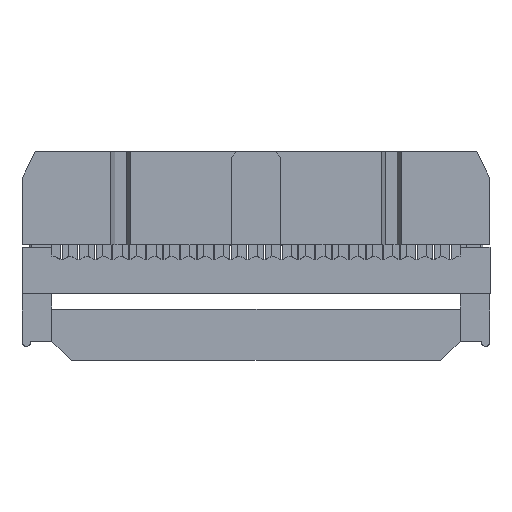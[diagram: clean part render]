
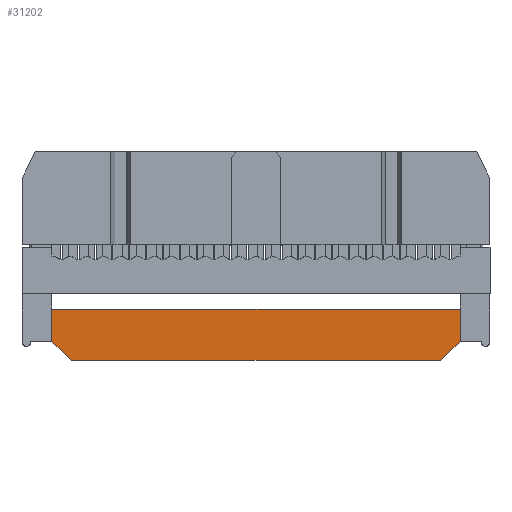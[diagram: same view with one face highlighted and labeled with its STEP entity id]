
A CAD part, front view. The second image highlights one B-rep face of the part: STEP entity #31202.
In plain terms, the highlighted planar face has unit normal (0, -1, 0).
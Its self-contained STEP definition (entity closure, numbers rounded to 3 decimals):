
#28340 = EDGE_CURVE('',#28341,#28343,#28345,.T.);
#28341 = VERTEX_POINT('',#28342);
#28342 = CARTESIAN_POINT('',(-13.965,-1.685,-1.365));
#28343 = VERTEX_POINT('',#28344);
#28344 = CARTESIAN_POINT('',(-13.76,-1.685,-1.45));
#28345 = SURFACE_CURVE('',#28346,(#28351,#28363),.PCURVE_S1.);
#28346 = CIRCLE('',#28347,0.29);
#28347 = AXIS2_PLACEMENT_3D('',#28348,#28349,#28350);
#28348 = CARTESIAN_POINT('',(-13.76,-1.685,-1.16));
#28349 = DIRECTION('',(0.,-1.,0.));
#28350 = DIRECTION('',(0.,0.,-1.));
#28351 = PCURVE('',#28352,#28357);
#28352 = CYLINDRICAL_SURFACE('',#28353,0.29);
#28353 = AXIS2_PLACEMENT_3D('',#28354,#28355,#28356);
#28354 = CARTESIAN_POINT('',(-13.76,-1.685,-1.16));
#28355 = DIRECTION('',(-0.,-1.,-0.));
#28356 = DIRECTION('',(0.,0.,1.));
#28357 = DEFINITIONAL_REPRESENTATION('',(#28358),#28362);
#28358 = LINE('',#28359,#28360);
#28359 = CARTESIAN_POINT('',(-3.142,0.));
#28360 = VECTOR('',#28361,1.);
#28361 = DIRECTION('',(1.,0.));
#28362 = ( GEOMETRIC_REPRESENTATION_CONTEXT(2) 
PARAMETRIC_REPRESENTATION_CONTEXT() REPRESENTATION_CONTEXT('2D SPACE',''
  ) );
#28363 = PCURVE('',#28364,#28369);
#28364 = PLANE('',#28365);
#28365 = AXIS2_PLACEMENT_3D('',#28366,#28367,#28368);
#28366 = CARTESIAN_POINT('',(-15.33,-1.685,0.));
#28367 = DIRECTION('',(0.,-1.,0.));
#28368 = DIRECTION('',(0.,0.,-1.));
#28369 = DEFINITIONAL_REPRESENTATION('',(#28370),#28374);
#28370 = CIRCLE('',#28371,0.29);
#28371 = AXIS2_PLACEMENT_2D('',#28372,#28373);
#28372 = CARTESIAN_POINT('',(1.16,1.57));
#28373 = DIRECTION('',(1.,0.));
#28374 = ( GEOMETRIC_REPRESENTATION_CONTEXT(2) 
PARAMETRIC_REPRESENTATION_CONTEXT() REPRESENTATION_CONTEXT('2D SPACE',''
  ) );
#28392 = PLANE('',#28393);
#28393 = AXIS2_PLACEMENT_3D('',#28394,#28395,#28396);
#28394 = CARTESIAN_POINT('',(-15.33,-1.685,0.));
#28395 = DIRECTION('',(-0.707,0.,-0.707));
#28396 = DIRECTION('',(-0.707,0.,0.707));
#28447 = PLANE('',#28448);
#28448 = AXIS2_PLACEMENT_3D('',#28449,#28450,#28451);
#28449 = CARTESIAN_POINT('',(-13.88,-1.685,-1.45));
#28450 = DIRECTION('',(0.,0.,-1.));
#28451 = DIRECTION('',(-1.,0.,0.));
#28991 = PLANE('',#28992);
#28992 = AXIS2_PLACEMENT_3D('',#28993,#28994,#28995);
#28993 = CARTESIAN_POINT('',(15.33,-3.,0.));
#28994 = DIRECTION('',(1.,0.,0.));
#28995 = DIRECTION('',(0.,0.,-1.));
#29375 = VERTEX_POINT('',#29376);
#29376 = CARTESIAN_POINT('',(15.33,-1.685,2.4));
#29390 = PLANE('',#29391);
#29391 = AXIS2_PLACEMENT_3D('',#29392,#29393,#29394);
#29392 = CARTESIAN_POINT('',(-15.33,-1.685,2.4));
#29393 = DIRECTION('',(0.,0.,-1.));
#29394 = DIRECTION('',(-1.,0.,0.));
#29402 = EDGE_CURVE('',#29403,#29375,#29405,.T.);
#29403 = VERTEX_POINT('',#29404);
#29404 = CARTESIAN_POINT('',(15.33,-1.685,0.));
#29405 = SURFACE_CURVE('',#29406,(#29410,#29417),.PCURVE_S1.);
#29406 = LINE('',#29407,#29408);
#29407 = CARTESIAN_POINT('',(15.33,-1.685,2.4));
#29408 = VECTOR('',#29409,1.);
#29409 = DIRECTION('',(0.,0.,1.));
#29410 = PCURVE('',#28991,#29411);
#29411 = DEFINITIONAL_REPRESENTATION('',(#29412),#29416);
#29412 = LINE('',#29413,#29414);
#29413 = CARTESIAN_POINT('',(-2.4,1.315));
#29414 = VECTOR('',#29415,1.);
#29415 = DIRECTION('',(-1.,0.));
#29416 = ( GEOMETRIC_REPRESENTATION_CONTEXT(2) 
PARAMETRIC_REPRESENTATION_CONTEXT() REPRESENTATION_CONTEXT('2D SPACE',''
  ) );
#29417 = PCURVE('',#28364,#29418);
#29418 = DEFINITIONAL_REPRESENTATION('',(#29419),#29423);
#29419 = LINE('',#29420,#29421);
#29420 = CARTESIAN_POINT('',(-2.4,30.66));
#29421 = VECTOR('',#29422,1.);
#29422 = DIRECTION('',(-1.,0.));
#29423 = ( GEOMETRIC_REPRESENTATION_CONTEXT(2) 
PARAMETRIC_REPRESENTATION_CONTEXT() REPRESENTATION_CONTEXT('2D SPACE',''
  ) );
#29850 = PLANE('',#29851);
#29851 = AXIS2_PLACEMENT_3D('',#29852,#29853,#29854);
#29852 = CARTESIAN_POINT('',(13.88,-1.685,-1.45));
#29853 = DIRECTION('',(0.707,0.,-0.707));
#29854 = DIRECTION('',(-0.707,0.,-0.707));
#29941 = PLANE('',#29942);
#29942 = AXIS2_PLACEMENT_3D('',#29943,#29944,#29945);
#29943 = CARTESIAN_POINT('',(-15.33,-3.,0.));
#29944 = DIRECTION('',(-1.,0.,0.));
#29945 = DIRECTION('',(0.,0.,1.));
#29954 = VERTEX_POINT('',#29955);
#29955 = CARTESIAN_POINT('',(-15.33,-1.685,0.));
#30118 = VERTEX_POINT('',#30119);
#30119 = CARTESIAN_POINT('',(-15.33,-1.685,2.4));
#30210 = EDGE_CURVE('',#30118,#29954,#30211,.T.);
#30211 = SURFACE_CURVE('',#30212,(#30216,#30223),.PCURVE_S1.);
#30212 = LINE('',#30213,#30214);
#30213 = CARTESIAN_POINT('',(-15.33,-1.685,0.));
#30214 = VECTOR('',#30215,1.);
#30215 = DIRECTION('',(0.,0.,-1.));
#30216 = PCURVE('',#29941,#30217);
#30217 = DEFINITIONAL_REPRESENTATION('',(#30218),#30222);
#30218 = LINE('',#30219,#30220);
#30219 = CARTESIAN_POINT('',(0.,1.315));
#30220 = VECTOR('',#30221,1.);
#30221 = DIRECTION('',(-1.,0.));
#30222 = ( GEOMETRIC_REPRESENTATION_CONTEXT(2) 
PARAMETRIC_REPRESENTATION_CONTEXT() REPRESENTATION_CONTEXT('2D SPACE',''
  ) );
#30223 = PCURVE('',#28364,#30224);
#30224 = DEFINITIONAL_REPRESENTATION('',(#30225),#30229);
#30225 = LINE('',#30226,#30227);
#30226 = CARTESIAN_POINT('',(0.,0.));
#30227 = VECTOR('',#30228,1.);
#30228 = DIRECTION('',(1.,0.));
#30229 = ( GEOMETRIC_REPRESENTATION_CONTEXT(2) 
PARAMETRIC_REPRESENTATION_CONTEXT() REPRESENTATION_CONTEXT('2D SPACE',''
  ) );
#30340 = CYLINDRICAL_SURFACE('',#30341,0.29);
#30341 = AXIS2_PLACEMENT_3D('',#30342,#30343,#30344);
#30342 = CARTESIAN_POINT('',(13.76,-1.685,-1.16));
#30343 = DIRECTION('',(-0.,-1.,-0.));
#30344 = DIRECTION('',(0.,0.,1.));
#30357 = EDGE_CURVE('',#28341,#29954,#30358,.T.);
#30358 = SURFACE_CURVE('',#30359,(#30363,#30370),.PCURVE_S1.);
#30359 = LINE('',#30360,#30361);
#30360 = CARTESIAN_POINT('',(-15.33,-1.685,0.));
#30361 = VECTOR('',#30362,1.);
#30362 = DIRECTION('',(-0.707,0.,0.707));
#30363 = PCURVE('',#28392,#30364);
#30364 = DEFINITIONAL_REPRESENTATION('',(#30365),#30369);
#30365 = LINE('',#30366,#30367);
#30366 = CARTESIAN_POINT('',(0.,0.));
#30367 = VECTOR('',#30368,1.);
#30368 = DIRECTION('',(1.,0.));
#30369 = ( GEOMETRIC_REPRESENTATION_CONTEXT(2) 
PARAMETRIC_REPRESENTATION_CONTEXT() REPRESENTATION_CONTEXT('2D SPACE',''
  ) );
#30370 = PCURVE('',#28364,#30371);
#30371 = DEFINITIONAL_REPRESENTATION('',(#30372),#30376);
#30372 = LINE('',#30373,#30374);
#30373 = CARTESIAN_POINT('',(0.,0.));
#30374 = VECTOR('',#30375,1.);
#30375 = DIRECTION('',(-0.707,-0.707));
#30376 = ( GEOMETRIC_REPRESENTATION_CONTEXT(2) 
PARAMETRIC_REPRESENTATION_CONTEXT() REPRESENTATION_CONTEXT('2D SPACE',''
  ) );
#31202 = ADVANCED_FACE('',(#31203),#28364,.T.);
#31203 = FACE_BOUND('',#31204,.T.);
#31204 = EDGE_LOOP('',(#31205,#31206,#31207,#31230,#31254,#31275,#31276,
    #31297));
#31205 = ORIENTED_EDGE('',*,*,#30357,.F.);
#31206 = ORIENTED_EDGE('',*,*,#28340,.T.);
#31207 = ORIENTED_EDGE('',*,*,#31208,.F.);
#31208 = EDGE_CURVE('',#31209,#28343,#31211,.T.);
#31209 = VERTEX_POINT('',#31210);
#31210 = CARTESIAN_POINT('',(13.76,-1.685,-1.45));
#31211 = SURFACE_CURVE('',#31212,(#31216,#31223),.PCURVE_S1.);
#31212 = LINE('',#31213,#31214);
#31213 = CARTESIAN_POINT('',(-13.88,-1.685,-1.45));
#31214 = VECTOR('',#31215,1.);
#31215 = DIRECTION('',(-1.,0.,0.));
#31216 = PCURVE('',#28364,#31217);
#31217 = DEFINITIONAL_REPRESENTATION('',(#31218),#31222);
#31218 = LINE('',#31219,#31220);
#31219 = CARTESIAN_POINT('',(1.45,1.45));
#31220 = VECTOR('',#31221,1.);
#31221 = DIRECTION('',(0.,-1.));
#31222 = ( GEOMETRIC_REPRESENTATION_CONTEXT(2) 
PARAMETRIC_REPRESENTATION_CONTEXT() REPRESENTATION_CONTEXT('2D SPACE',''
  ) );
#31223 = PCURVE('',#28447,#31224);
#31224 = DEFINITIONAL_REPRESENTATION('',(#31225),#31229);
#31225 = LINE('',#31226,#31227);
#31226 = CARTESIAN_POINT('',(0.,0.));
#31227 = VECTOR('',#31228,1.);
#31228 = DIRECTION('',(1.,0.));
#31229 = ( GEOMETRIC_REPRESENTATION_CONTEXT(2) 
PARAMETRIC_REPRESENTATION_CONTEXT() REPRESENTATION_CONTEXT('2D SPACE',''
  ) );
#31230 = ORIENTED_EDGE('',*,*,#31231,.T.);
#31231 = EDGE_CURVE('',#31209,#31232,#31234,.T.);
#31232 = VERTEX_POINT('',#31233);
#31233 = CARTESIAN_POINT('',(13.965,-1.685,-1.365));
#31234 = SURFACE_CURVE('',#31235,(#31240,#31247),.PCURVE_S1.);
#31235 = CIRCLE('',#31236,0.29);
#31236 = AXIS2_PLACEMENT_3D('',#31237,#31238,#31239);
#31237 = CARTESIAN_POINT('',(13.76,-1.685,-1.16));
#31238 = DIRECTION('',(0.,-1.,0.));
#31239 = DIRECTION('',(0.,0.,-1.));
#31240 = PCURVE('',#28364,#31241);
#31241 = DEFINITIONAL_REPRESENTATION('',(#31242),#31246);
#31242 = CIRCLE('',#31243,0.29);
#31243 = AXIS2_PLACEMENT_2D('',#31244,#31245);
#31244 = CARTESIAN_POINT('',(1.16,29.09));
#31245 = DIRECTION('',(1.,0.));
#31246 = ( GEOMETRIC_REPRESENTATION_CONTEXT(2) 
PARAMETRIC_REPRESENTATION_CONTEXT() REPRESENTATION_CONTEXT('2D SPACE',''
  ) );
#31247 = PCURVE('',#30340,#31248);
#31248 = DEFINITIONAL_REPRESENTATION('',(#31249),#31253);
#31249 = LINE('',#31250,#31251);
#31250 = CARTESIAN_POINT('',(3.142,0.));
#31251 = VECTOR('',#31252,1.);
#31252 = DIRECTION('',(1.,0.));
#31253 = ( GEOMETRIC_REPRESENTATION_CONTEXT(2) 
PARAMETRIC_REPRESENTATION_CONTEXT() REPRESENTATION_CONTEXT('2D SPACE',''
  ) );
#31254 = ORIENTED_EDGE('',*,*,#31255,.F.);
#31255 = EDGE_CURVE('',#29403,#31232,#31256,.T.);
#31256 = SURFACE_CURVE('',#31257,(#31261,#31268),.PCURVE_S1.);
#31257 = LINE('',#31258,#31259);
#31258 = CARTESIAN_POINT('',(13.88,-1.685,-1.45));
#31259 = VECTOR('',#31260,1.);
#31260 = DIRECTION('',(-0.707,0.,-0.707));
#31261 = PCURVE('',#28364,#31262);
#31262 = DEFINITIONAL_REPRESENTATION('',(#31263),#31267);
#31263 = LINE('',#31264,#31265);
#31264 = CARTESIAN_POINT('',(1.45,29.21));
#31265 = VECTOR('',#31266,1.);
#31266 = DIRECTION('',(0.707,-0.707));
#31267 = ( GEOMETRIC_REPRESENTATION_CONTEXT(2) 
PARAMETRIC_REPRESENTATION_CONTEXT() REPRESENTATION_CONTEXT('2D SPACE',''
  ) );
#31268 = PCURVE('',#29850,#31269);
#31269 = DEFINITIONAL_REPRESENTATION('',(#31270),#31274);
#31270 = LINE('',#31271,#31272);
#31271 = CARTESIAN_POINT('',(0.,0.));
#31272 = VECTOR('',#31273,1.);
#31273 = DIRECTION('',(1.,0.));
#31274 = ( GEOMETRIC_REPRESENTATION_CONTEXT(2) 
PARAMETRIC_REPRESENTATION_CONTEXT() REPRESENTATION_CONTEXT('2D SPACE',''
  ) );
#31275 = ORIENTED_EDGE('',*,*,#29402,.T.);
#31276 = ORIENTED_EDGE('',*,*,#31277,.T.);
#31277 = EDGE_CURVE('',#29375,#30118,#31278,.T.);
#31278 = SURFACE_CURVE('',#31279,(#31283,#31290),.PCURVE_S1.);
#31279 = LINE('',#31280,#31281);
#31280 = CARTESIAN_POINT('',(-15.33,-1.685,2.4));
#31281 = VECTOR('',#31282,1.);
#31282 = DIRECTION('',(-1.,0.,0.));
#31283 = PCURVE('',#28364,#31284);
#31284 = DEFINITIONAL_REPRESENTATION('',(#31285),#31289);
#31285 = LINE('',#31286,#31287);
#31286 = CARTESIAN_POINT('',(-2.4,0.));
#31287 = VECTOR('',#31288,1.);
#31288 = DIRECTION('',(0.,-1.));
#31289 = ( GEOMETRIC_REPRESENTATION_CONTEXT(2) 
PARAMETRIC_REPRESENTATION_CONTEXT() REPRESENTATION_CONTEXT('2D SPACE',''
  ) );
#31290 = PCURVE('',#29390,#31291);
#31291 = DEFINITIONAL_REPRESENTATION('',(#31292),#31296);
#31292 = LINE('',#31293,#31294);
#31293 = CARTESIAN_POINT('',(0.,0.));
#31294 = VECTOR('',#31295,1.);
#31295 = DIRECTION('',(1.,0.));
#31296 = ( GEOMETRIC_REPRESENTATION_CONTEXT(2) 
PARAMETRIC_REPRESENTATION_CONTEXT() REPRESENTATION_CONTEXT('2D SPACE',''
  ) );
#31297 = ORIENTED_EDGE('',*,*,#30210,.T.);
